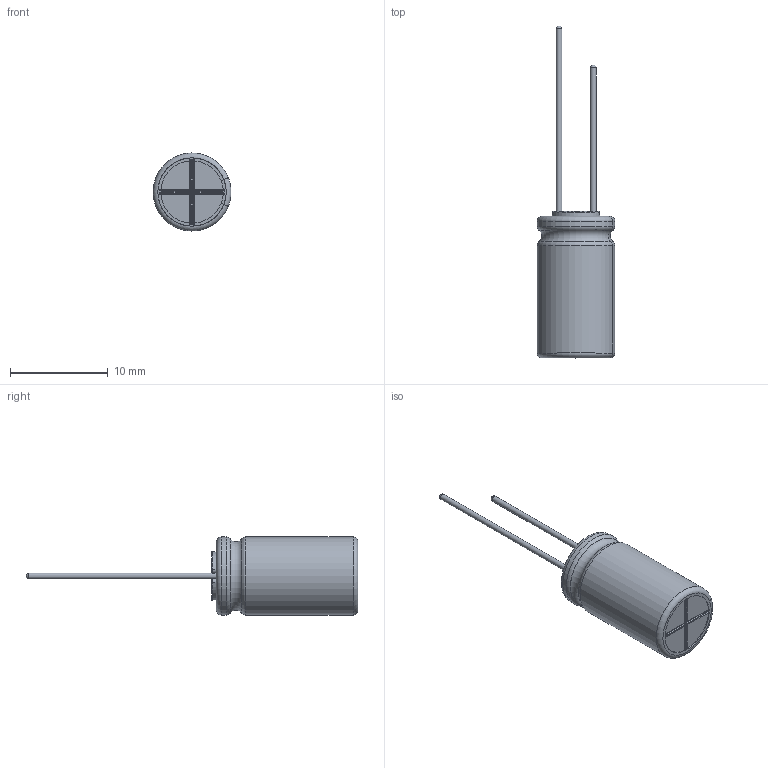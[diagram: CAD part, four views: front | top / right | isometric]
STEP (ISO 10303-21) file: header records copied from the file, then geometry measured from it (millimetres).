
FILE_DESCRIPTION(/* description */ (''),/* implementation_level */ '2;1');
FILE_NAME(/* name */ '8x15_Lead.stp',/* time_stamp */ '2017-09-05T13:57:21+09:00',/* author */ (''),/* organization */ (''),/* preprocessor_version */ 'ST-DEVELOPER v16',/* originating_system */ 'SIEMENS PLM Software NX 11.0',/* authorisation */ '');
FILE_SCHEMA (('AUTOMOTIVE_DESIGN { 1 0 10303 214 3 1 1 1 }'));
Length unit declared in the file: millimetre
Products named in the file (1): 8x15_Lead_0
Bounding box: 7.99 x 34 x 8 mm (x, y, z)
Volume: 727.1 mm3; surface area: 1300.4 mm2
Topology: 3 solids, 3 shells, 115 faces, 288 edges, 181 vertices
Faces by surface type: cylinder 44, torus 33, plane 28, sphere 6, bspline 4
Full cylindrical faces by diameter (mm): 0.6 x2, 7.8 x2
Entity records: 4020 total; most frequent: CARTESIAN_POINT 680, DIRECTION 664, ORIENTED_EDGE 544, AXIS2_PLACEMENT_3D 280, EDGE_CURVE 272, VERTEX_POINT 176, CIRCLE 160, EDGE_LOOP 128
